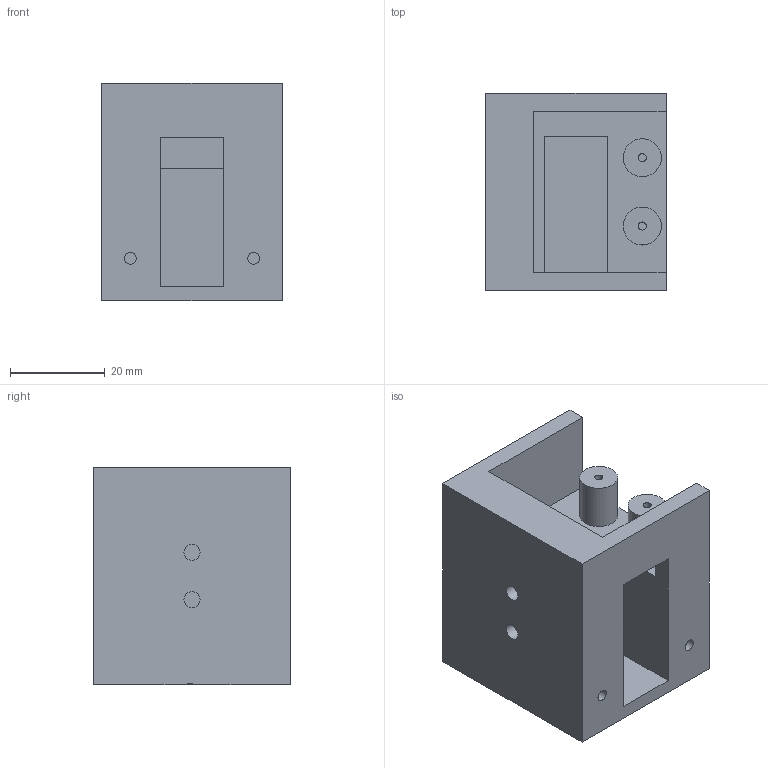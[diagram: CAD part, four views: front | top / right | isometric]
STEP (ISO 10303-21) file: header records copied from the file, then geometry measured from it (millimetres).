
FILE_DESCRIPTION(('Open CASCADE Model'),'2;1');
FILE_NAME('Open CASCADE Shape Model','2026-07-25T17:39:14',('Author'),( 'Open CASCADE'),'Open CASCADE STEP processor 7.9','build123d', 'Unknown');
FILE_SCHEMA(('AUTOMOTIVE_DESIGN { 1 0 10303 214 1 1 1 1 }'));
Length unit declared in the file: millimetre
Products named in the file (2): =>[0:1:1:2]; COMPOUND
Assembly tree (1 placements, depth 2):
  =>[0:1:1:2]
    COMPOUND
Bounding box: 38 x 41.6 x 46 mm (x, y, z)
Volume: 45059.5 mm3; surface area: 14114.9 mm2
Topology: 1 solids, 1 shells, 338 faces, 912 edges, 608 vertices
Faces by surface type: extrusion 193, plane 137, cylinder 8
Full cylindrical faces by diameter (mm): 1.7 x2, 2.5 x2, 3.4 x2, 8 x2
Entity records: 26103 total; most frequent: CARTESIAN_POINT 9895, DIRECTION 2046, ORIENTED_EDGE 1824, PCURVE 1824, DEFINITIONAL_REPRESENTATION 1824, VECTOR 1706, LINE 1513, B_SPLINE_CURVE_WITH_KNOTS 1384
